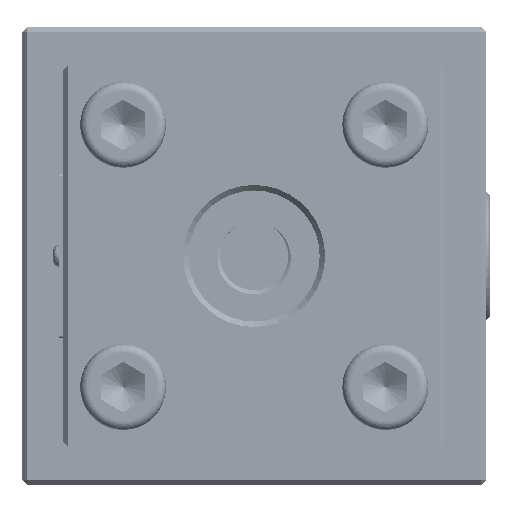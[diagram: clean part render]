
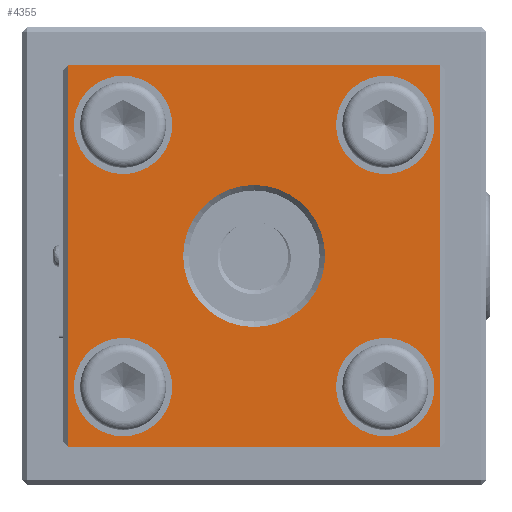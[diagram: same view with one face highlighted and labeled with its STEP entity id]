
A CAD part, left-side view. The second image highlights one B-rep face of the part: STEP entity #4355.
In plain terms, the highlighted planar face has unit normal (-1, 0, 0).
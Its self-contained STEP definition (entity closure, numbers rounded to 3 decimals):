
#2421=PLANE('',#23557);
#4355=ADVANCED_FACE('',(#8970,#8971,#8972,#8973,#8974,#8975),#2421,.F.);
#6498=LINE('',#81512,#8139);
#6499=LINE('',#81515,#8140);
#6500=LINE('',#81517,#8141);
#6501=LINE('',#81519,#8142);
#8139=VECTOR('',#28409,1.);
#8140=VECTOR('',#28410,1.);
#8141=VECTOR('',#28411,1.);
#8142=VECTOR('',#28412,1.);
#8970=FACE_BOUND('',#10967,.T.);
#8971=FACE_BOUND('',#10968,.T.);
#8972=FACE_BOUND('',#10969,.T.);
#8973=FACE_BOUND('',#10970,.T.);
#8974=FACE_BOUND('',#10971,.T.);
#8975=FACE_BOUND('',#10972,.T.);
#10967=EDGE_LOOP('',(#15936));
#10968=EDGE_LOOP('',(#15937));
#10969=EDGE_LOOP('',(#15938));
#10970=EDGE_LOOP('',(#15939));
#10971=EDGE_LOOP('',(#15940));
#10972=EDGE_LOOP('',(#15941,#15942,#15943,#15944));
#15936=ORIENTED_EDGE('',*,*,#21102,.T.);
#15937=ORIENTED_EDGE('',*,*,#21103,.T.);
#15938=ORIENTED_EDGE('',*,*,#21104,.T.);
#15939=ORIENTED_EDGE('',*,*,#21105,.T.);
#15940=ORIENTED_EDGE('',*,*,#21106,.F.);
#15941=ORIENTED_EDGE('',*,*,#21107,.T.);
#15942=ORIENTED_EDGE('',*,*,#21108,.F.);
#15943=ORIENTED_EDGE('',*,*,#21109,.F.);
#15944=ORIENTED_EDGE('',*,*,#21110,.T.);
#18530=VERTEX_POINT('',#81503);
#18531=VERTEX_POINT('',#81505);
#18532=VERTEX_POINT('',#81507);
#18533=VERTEX_POINT('',#81509);
#18534=VERTEX_POINT('',#81511);
#18535=VERTEX_POINT('',#81513);
#18536=VERTEX_POINT('',#81514);
#18537=VERTEX_POINT('',#81516);
#18538=VERTEX_POINT('',#81518);
#21102=EDGE_CURVE('',#18530,#18530,#22011,.T.);
#21103=EDGE_CURVE('',#18531,#18531,#22012,.T.);
#21104=EDGE_CURVE('',#18532,#18532,#22013,.T.);
#21105=EDGE_CURVE('',#18533,#18533,#22014,.T.);
#21106=EDGE_CURVE('',#18534,#18534,#22015,.T.);
#21107=EDGE_CURVE('',#18535,#18536,#6498,.T.);
#21108=EDGE_CURVE('',#18537,#18536,#6499,.T.);
#21109=EDGE_CURVE('',#18538,#18537,#6500,.T.);
#21110=EDGE_CURVE('',#18538,#18535,#6501,.T.);
#22011=CIRCLE('',#23552,9.);
#22012=CIRCLE('',#23553,9.);
#22013=CIRCLE('',#23554,9.);
#22014=CIRCLE('',#23555,9.);
#22015=CIRCLE('',#23556,13.);
#23552=AXIS2_PLACEMENT_3D('',#81502,#28399,#28400);
#23553=AXIS2_PLACEMENT_3D('',#81504,#28401,#28402);
#23554=AXIS2_PLACEMENT_3D('',#81506,#28403,#28404);
#23555=AXIS2_PLACEMENT_3D('',#81508,#28405,#28406);
#23556=AXIS2_PLACEMENT_3D('',#81510,#28407,#28408);
#23557=AXIS2_PLACEMENT_3D('',#81520,#28413,#28414);
#28399=DIRECTION('',(1.,0.,0.));
#28400=DIRECTION('',(0.,0.,-1.));
#28401=DIRECTION('',(1.,0.,0.));
#28402=DIRECTION('',(0.,0.,-1.));
#28403=DIRECTION('',(1.,0.,0.));
#28404=DIRECTION('',(0.,0.,-1.));
#28405=DIRECTION('',(1.,0.,0.));
#28406=DIRECTION('',(0.,0.,-1.));
#28407=DIRECTION('',(-1.,0.,0.));
#28408=DIRECTION('',(0.,0.,1.));
#28409=DIRECTION('',(0.,-1.,0.));
#28410=DIRECTION('',(0.,0.,-1.));
#28411=DIRECTION('',(0.,-1.,0.));
#28412=DIRECTION('',(0.,0.,-1.));
#28413=DIRECTION('',(1.,0.,0.));
#28414=DIRECTION('',(0.,0.,1.));
#81502=CARTESIAN_POINT('',(152.452,226.81,-24.107));
#81503=CARTESIAN_POINT('',(152.452,226.81,-33.107));
#81504=CARTESIAN_POINT('',(152.452,226.81,23.893));
#81505=CARTESIAN_POINT('',(152.452,226.81,14.893));
#81506=CARTESIAN_POINT('',(152.452,274.81,-24.107));
#81507=CARTESIAN_POINT('',(152.452,274.81,-33.107));
#81508=CARTESIAN_POINT('',(152.452,274.81,23.893));
#81509=CARTESIAN_POINT('',(152.452,274.81,14.893));
#81510=CARTESIAN_POINT('',(152.452,250.81,-0.107));
#81511=CARTESIAN_POINT('',(152.452,250.81,12.893));
#81512=CARTESIAN_POINT('',(152.452,284.81,-35.107));
#81513=CARTESIAN_POINT('',(152.452,284.81,-35.107));
#81514=CARTESIAN_POINT('',(152.452,216.81,-35.107));
#81515=CARTESIAN_POINT('',(152.452,216.81,34.893));
#81516=CARTESIAN_POINT('',(152.452,216.81,34.893));
#81517=CARTESIAN_POINT('',(152.452,284.81,34.893));
#81518=CARTESIAN_POINT('',(152.452,284.81,34.893));
#81519=CARTESIAN_POINT('',(152.452,284.81,34.893));
#81520=CARTESIAN_POINT('',(152.452,284.81,34.893));
